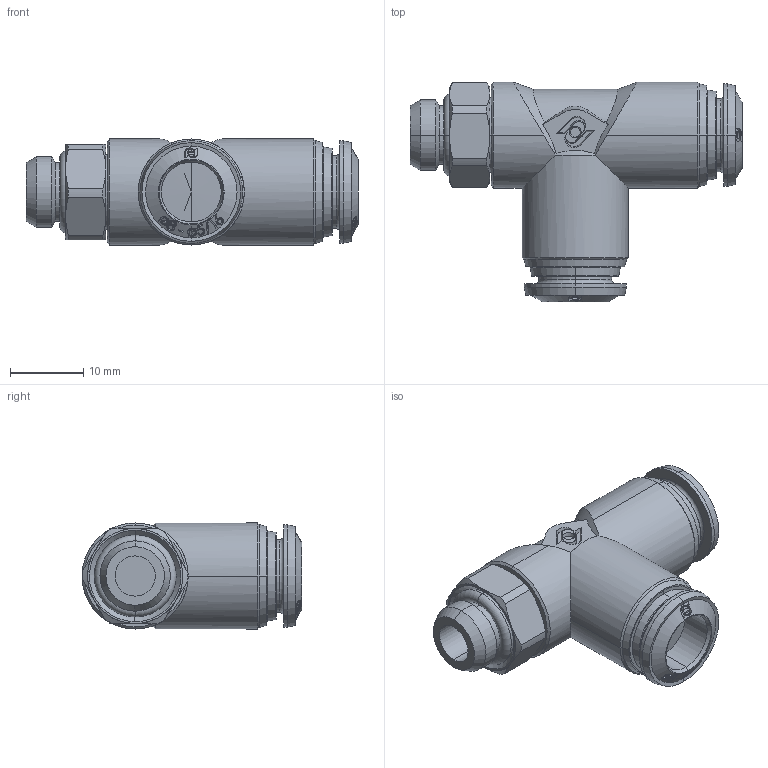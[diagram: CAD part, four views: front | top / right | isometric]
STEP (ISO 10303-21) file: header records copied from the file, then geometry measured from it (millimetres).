
FILE_DESCRIPTION (( 'STEP AP214' ), '1' );
FILE_NAME ('5022600010.step', '2012-10-01T16:51:12', ( '' ), ( '' ), 'SwSTEP 2.0', 'SolidWorks 2012', '' );
FILE_SCHEMA (( 'AUTOMOTIVE_DESIGN' ));
Length unit declared in the file: millimetre
Products named in the file (1): 5022600010
Bounding box: 45.4 x 30.05 x 14.5 mm (x, y, z)
Volume: 8081.4 mm3; surface area: 4105.8 mm2
Topology: 2 solids, 2 shells, 458 faces, 1180 edges, 767 vertices
Faces by surface type: bspline 226, cone 120, plane 53, cylinder 37, torus 22
Entity records: 26115 total; most frequent: CARTESIAN_POINT 16994, ORIENTED_EDGE 2356, EDGE_CURVE 1178, DIRECTION 1060, B_SPLINE_CURVE_WITH_KNOTS 786, VERTEX_POINT 767, EDGE_LOOP 503, FACE_OUTER_BOUND 458
